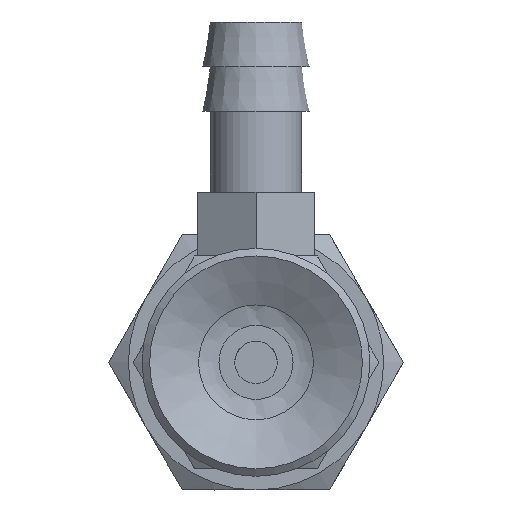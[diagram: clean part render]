
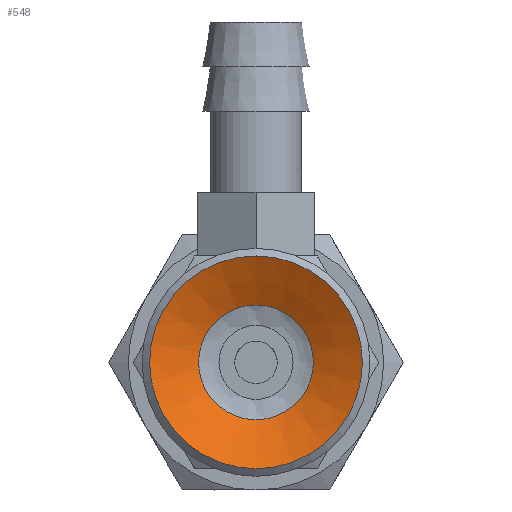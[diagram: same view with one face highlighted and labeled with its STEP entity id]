
A CAD part, front view. The second image highlights one B-rep face of the part: STEP entity #548.
In plain terms, the highlighted conical face has half-angle 61.39 degrees and reference radius 2.25 mm.
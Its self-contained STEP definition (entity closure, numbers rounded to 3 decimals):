
#548=ADVANCED_FACE('',(#810,#811),#812,.F.);
#810=FACE_BOUND('',#1127,.T.);
#811=FACE_OUTER_BOUND('',#1128,.T.);
#812=CONICAL_SURFACE('',#1129,2.25,1.071);
#1127=EDGE_LOOP('',(#1855));
#1128=EDGE_LOOP('',(#1856));
#1129=AXIS2_PLACEMENT_3D('',#1857,#1858,#1859);
#1855=ORIENTED_EDGE('',*,*,#2197,.T.);
#1856=ORIENTED_EDGE('',*,*,#2198,.T.);
#1857=CARTESIAN_POINT('',(0.0,1.5,0.0));
#1858=DIRECTION('',(-0.0,-1.0,0.));
#1859=DIRECTION('',(0.0,0.,-1.0));
#2197=EDGE_CURVE('',#2521,#2521,#2522,.T.);
#2198=EDGE_CURVE('',#2523,#2523,#2524,.T.);
#2521=VERTEX_POINT('',#3265);
#2522=CIRCLE('',#3266,2.698);
#2523=VERTEX_POINT('',#3267);
#2524=CIRCLE('',#3268,5.);
#3265=CARTESIAN_POINT('',(0.0,1.256,-2.698));
#3266=AXIS2_PLACEMENT_3D('',#3615,#3616,#3617);
#3267=CARTESIAN_POINT('',(0.0,0.,-5.));
#3268=AXIS2_PLACEMENT_3D('',#3618,#3619,#3620);
#3615=CARTESIAN_POINT('',(0.0,1.256,0.0));
#3616=DIRECTION('',(0.0,1.0,0.));
#3617=DIRECTION('',(0.0,0.,-1.0));
#3618=CARTESIAN_POINT('',(0.0,0.0,0.0));
#3619=DIRECTION('',(0.0,-1.0,0.));
#3620=DIRECTION('',(0.0,0.,-1.0));
